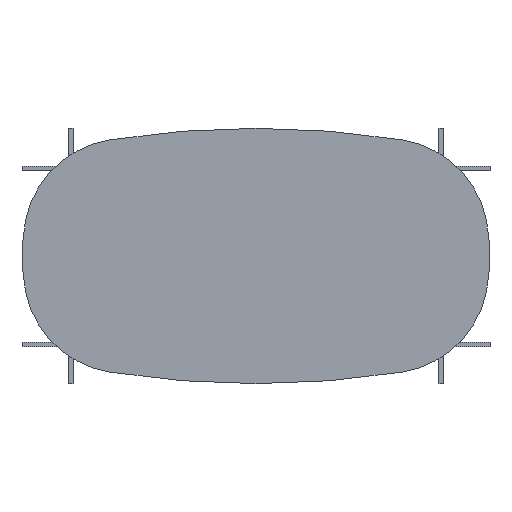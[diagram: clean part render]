
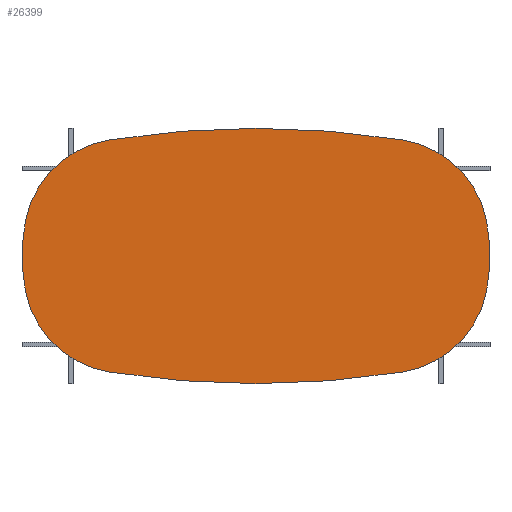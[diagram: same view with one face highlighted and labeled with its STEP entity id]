
A CAD part, top view. The second image highlights one B-rep face of the part: STEP entity #26399.
In plain terms, the highlighted planar face has unit normal (0, 0, 1).
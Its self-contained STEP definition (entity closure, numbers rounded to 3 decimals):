
#2 = VERTEX_POINT ( 'NONE', #29908 ) ;
#299 = CARTESIAN_POINT ( 'NONE',  ( -344.014, 272.937, 4. ) ) ;
#886 = DIRECTION ( 'NONE',  ( 0., 0., -1. ) ) ;
#1382 = CARTESIAN_POINT ( 'NONE',  ( 0., -1900., 4. ) ) ;
#1940 = EDGE_CURVE ( 'NONE', #23472, #24646, #4596, .T. ) ;
#2803 = CARTESIAN_POINT ( 'NONE',  ( 541.926, -82.448, 4. ) ) ;
#2832 = EDGE_LOOP ( 'NONE', ( #27468, #15949, #16085, #22275, #27160, #30081, #6740, #6096 ) ) ;
#3165 = EDGE_CURVE ( 'NONE', #7346, #29747, #17091, .T. ) ;
#3839 = DIRECTION ( 'NONE',  ( 0., 0., 1. ) ) ;
#4539 = DIRECTION ( 'NONE',  ( -1., 0., 0. ) ) ;
#4596 = CIRCLE ( 'NONE', #19905, 240. ) ;
#4806 = CIRCLE ( 'NONE', #17204, 2200. ) ;
#5422 = PLANE ( 'NONE',  #25868 ) ;
#6096 = ORIENTED_EDGE ( 'NONE', *, *, #20113, .F. ) ;
#6203 = CARTESIAN_POINT ( 'NONE',  ( 306.485, 35.889, 4. ) ) ;
#6508 = DIRECTION ( 'NONE',  ( -1., 0., 0. ) ) ;
#6740 = ORIENTED_EDGE ( 'NONE', *, *, #14735, .T. ) ;
#7314 = CARTESIAN_POINT ( 'NONE',  ( 306.485, -35.889, 4. ) ) ;
#7346 = VERTEX_POINT ( 'NONE', #299 ) ;
#9559 = CIRCLE ( 'NONE', #11286, 240. ) ;
#9698 = CARTESIAN_POINT ( 'NONE',  ( -306.485, 35.889, 4. ) ) ;
#10739 = CARTESIAN_POINT ( 'NONE',  ( 541.926, 82.448, 4. ) ) ;
#11286 = AXIS2_PLACEMENT_3D ( 'NONE', #20004, #18350, #6508 ) ;
#11878 = AXIS2_PLACEMENT_3D ( 'NONE', #14541, #14714, #33528 ) ;
#12037 = DIRECTION ( 'NONE',  ( -1., 0., 0. ) ) ;
#12186 = CARTESIAN_POINT ( 'NONE',  ( -125., 0., 4. ) ) ;
#12358 = EDGE_CURVE ( 'NONE', #34053, #24646, #23453, .T. ) ;
#13248 = EDGE_CURVE ( 'NONE', #2, #7346, #4806, .T. ) ;
#13344 = CARTESIAN_POINT ( 'NONE',  ( -344.014, -272.937, 4. ) ) ;
#14541 = CARTESIAN_POINT ( 'NONE',  ( 0., 1900., 4. ) ) ;
#14714 = DIRECTION ( 'NONE',  ( 0., 0., -1. ) ) ;
#14735 = EDGE_CURVE ( 'NONE', #29747, #33973, #25219, .T. ) ;
#14810 = AXIS2_PLACEMENT_3D ( 'NONE', #9698, #20517, #4539 ) ;
#14994 = DIRECTION ( 'NONE',  ( 1., 0., 0. ) ) ;
#15267 = CIRCLE ( 'NONE', #11878, 2200. ) ;
#15295 = CIRCLE ( 'NONE', #30027, 240. ) ;
#15949 = ORIENTED_EDGE ( 'NONE', *, *, #1940, .T. ) ;
#16014 = DIRECTION ( 'NONE',  ( 0., 0., 1. ) ) ;
#16084 = CARTESIAN_POINT ( 'NONE',  ( 0., -1900., 4. ) ) ;
#16085 = ORIENTED_EDGE ( 'NONE', *, *, #12358, .F. ) ;
#17091 = CIRCLE ( 'NONE', #14810, 240. ) ;
#17204 = AXIS2_PLACEMENT_3D ( 'NONE', #1382, #25340, #12037 ) ;
#17210 = DIRECTION ( 'NONE',  ( 1., 0., 0. ) ) ;
#17311 = VERTEX_POINT ( 'NONE', #13344 ) ;
#18350 = DIRECTION ( 'NONE',  ( 0., 0., -1. ) ) ;
#18748 = FACE_OUTER_BOUND ( 'NONE', #2832, .T. ) ;
#19477 = EDGE_CURVE ( 'NONE', #2, #34053, #15295, .T. ) ;
#19905 = AXIS2_PLACEMENT_3D ( 'NONE', #7314, #16014, #24167 ) ;
#19995 = CARTESIAN_POINT ( 'NONE',  ( 344.014, -272.937, 4. ) ) ;
#20004 = CARTESIAN_POINT ( 'NONE',  ( -306.485, -35.889, 4. ) ) ;
#20113 = EDGE_CURVE ( 'NONE', #17311, #33973, #9559, .T. ) ;
#20517 = DIRECTION ( 'NONE',  ( 0., 0., 1. ) ) ;
#21213 = AXIS2_PLACEMENT_3D ( 'NONE', #22641, #22979, #14994 ) ;
#22275 = ORIENTED_EDGE ( 'NONE', *, *, #19477, .F. ) ;
#22641 = CARTESIAN_POINT ( 'NONE',  ( 125., 0., 4. ) ) ;
#22979 = DIRECTION ( 'NONE',  ( 0., 0., -1. ) ) ;
#23453 = CIRCLE ( 'NONE', #21213, 425. ) ;
#23472 = VERTEX_POINT ( 'NONE', #19995 ) ;
#24167 = DIRECTION ( 'NONE',  ( 1., 0., 0. ) ) ;
#24646 = VERTEX_POINT ( 'NONE', #2803 ) ;
#25219 = CIRCLE ( 'NONE', #29826, 425. ) ;
#25298 = CARTESIAN_POINT ( 'NONE',  ( -541.926, -82.448, 4. ) ) ;
#25340 = DIRECTION ( 'NONE',  ( 0., 0., 1. ) ) ;
#25868 = AXIS2_PLACEMENT_3D ( 'NONE', #16084, #32933, #26899 ) ;
#26399 = ADVANCED_FACE ( 'NONE', ( #18748 ), #5422, .F. ) ;
#26899 = DIRECTION ( 'NONE',  ( -1., 0., 0. ) ) ;
#27160 = ORIENTED_EDGE ( 'NONE', *, *, #13248, .T. ) ;
#27468 = ORIENTED_EDGE ( 'NONE', *, *, #29013, .F. ) ;
#29013 = EDGE_CURVE ( 'NONE', #23472, #17311, #15267, .T. ) ;
#29747 = VERTEX_POINT ( 'NONE', #30772 ) ;
#29826 = AXIS2_PLACEMENT_3D ( 'NONE', #12186, #3839, #30478 ) ;
#29908 = CARTESIAN_POINT ( 'NONE',  ( 344.014, 272.937, 4. ) ) ;
#30027 = AXIS2_PLACEMENT_3D ( 'NONE', #6203, #886, #17210 ) ;
#30081 = ORIENTED_EDGE ( 'NONE', *, *, #3165, .T. ) ;
#30478 = DIRECTION ( 'NONE',  ( -1., 0., 0. ) ) ;
#30772 = CARTESIAN_POINT ( 'NONE',  ( -541.926, 82.448, 4. ) ) ;
#32933 = DIRECTION ( 'NONE',  ( 0., 0., -1. ) ) ;
#33528 = DIRECTION ( 'NONE',  ( -1., 0., 0. ) ) ;
#33973 = VERTEX_POINT ( 'NONE', #25298 ) ;
#34053 = VERTEX_POINT ( 'NONE', #10739 ) ;
